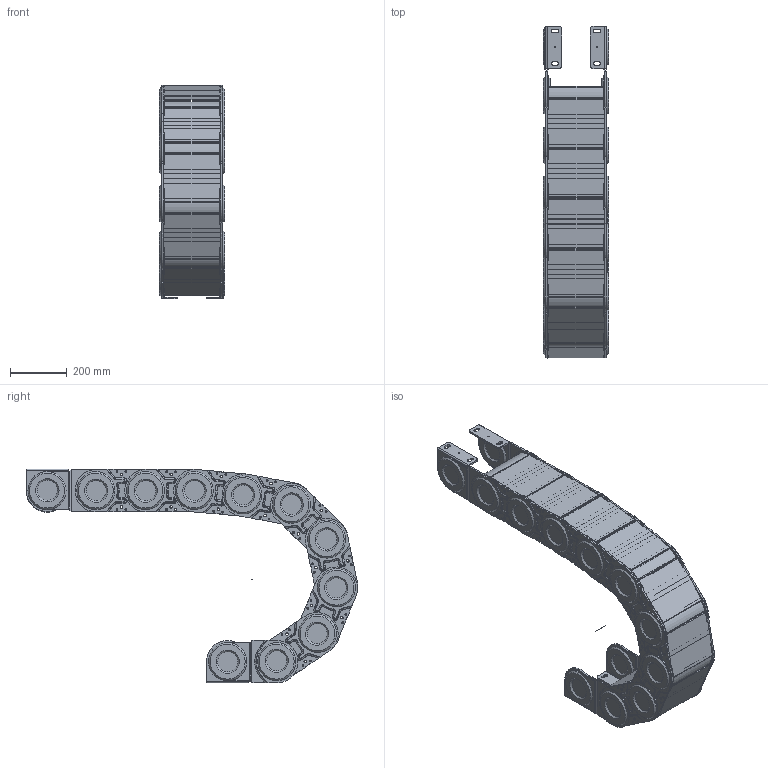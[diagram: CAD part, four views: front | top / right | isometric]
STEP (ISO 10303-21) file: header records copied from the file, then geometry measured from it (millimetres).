
FILE_DESCRIPTION((''),'2;1');
FILE_NAME('C:\Uebbing\TRACE PARTS\SLE\SLE 625\SLE 625 vereinfacht.stp','2013-05-29T09:17:52',('Uebbing'),(''),'Autodesk Inventor 10','Autodesk Inventor 10','');
FILE_SCHEMA(('AUTOMOTIVE_DESIGN { 1 0 10303 214 1 1 1 1 }'));
Length unit declared in the file: millimetre
Products named in the file (8): SLE 625 vereinfacht; Achse; SLE 625 Glied vereinfacht; SLE 620 Hauptlasche vereinfacht; SLE 625 ASA; SLE 625 ASI; SLE 620 Anschluss N einfach vereinfacht; SLE 620 Anschluss N doppelt vereinfacht
Assembly tree (15 placements, depth 3):
  SLE 625 vereinfacht
    Achse
    SLE 625 Glied vereinfacht  x8
      SLE 620 Hauptlasche vereinfacht
      SLE 625 ASA
      SLE 625 ASI
    SLE 620 Anschluss N einfach vereinfacht
    SLE 620 Anschluss N doppelt vereinfacht
Bounding box: 230.2 x 1169.85 x 754.36 mm (x, y, z)
Volume: 10141708.1 mm3; surface area: 4560481.1 mm2
Topology: 40 solids, 40 shells, 4061 faces, 10324 edges, 6431 vertices
Faces by surface type: plane 1286, cylinder 1175, cone 800, bspline 568, torus 232
Full cylindrical faces by diameter (mm): 1 x1, 5 x4, 5.5 x32, 6.3 x64, 9 x32, 71 x44, 134 x44
Entity records: 18700 total; most frequent: CARTESIAN_POINT 3680, DIRECTION 3275, ORIENTED_EDGE 2912, EDGE_CURVE 1456, AXIS2_PLACEMENT_3D 1240, VERTEX_POINT 966, VECTOR 795, LINE 795
